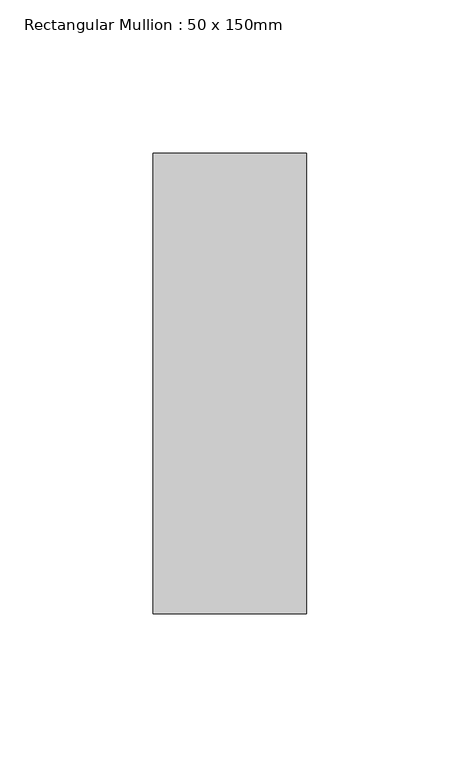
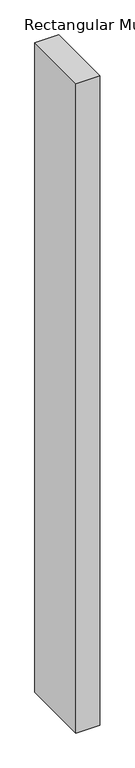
"""IFC4 building model written with IfcOpenShell, lengths in millimetres: member geometry, Rectangular Mullion : 50 x 150mm."""

from ifc_helpers import new_model, si_unit, frame, origin, place, context, project, spatial, polyline, outline, extrude, source, transform, mapped, element, save


def rectangular_mullion_50_x_150mm_25842354(model_context):
    return source(origin(), model_context, "Body", "SweptSolid", [
        extrude(outline(polyline([(25.0, 75.0), (25.0, -75.0), (-25.0, -75.0), (-25.0, 75.0), (25.0, 75.0)])), frame((0.0, 0.0, -1449.0000003), z_axis=(0.0, 0.0, 1.0), x_axis=(1.0, 0.0, 0.0)), (0.0, 0.0, 1.0), 1449.0000003),
    ])


if __name__ == "__main__":
    model = new_model("IFC4")
    model_context = context("Model", 3, world=origin())
    ifc_project = project(units=[si_unit("LENGTHUNIT", "METRE", prefix="MILLI")], contexts=[model_context])
    site = spatial("IfcSite", under=ifc_project)
    building = spatial("IfcBuilding", under=site)
    placement = place(None, origin())
    rectangular_mullion_50_x_150mm_shape = rectangular_mullion_50_x_150mm_25842354(model_context)
    element("IfcMember", 1, ObjectType="Rectangular Mullion : 50 x 150mm", at=placement, inside=building, context=model_context, shape_type="MappedRepresentation", body=[
        mapped(rectangular_mullion_50_x_150mm_shape, transform((0.0, 0.0, 0.0), x_axis=(1.0, 0.0, 0.0), y_axis=(0.0, 1.0, 0.0), z_axis=(0.0, 0.0, 1.0))),
    ])
    save(model, "model.ifc")
